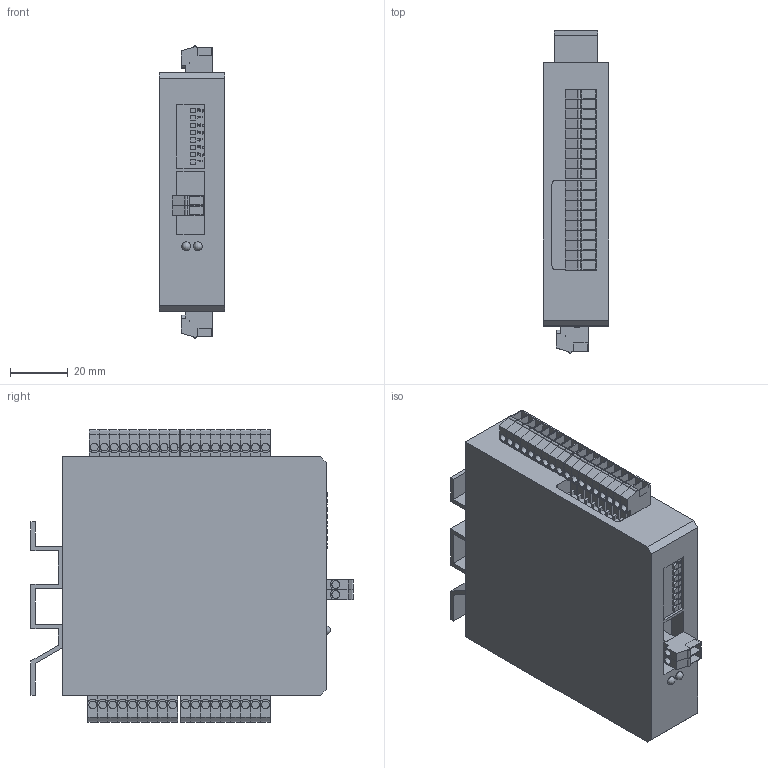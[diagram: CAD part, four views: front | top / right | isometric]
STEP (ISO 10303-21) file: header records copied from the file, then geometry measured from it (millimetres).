
FILE_DESCRIPTION (( 'STEP AP214' ), '1' );
FILE_NAME ('Z1690_Siganlwandler_4~0.STEP', '2017-11-16T10:33:04', ( '' ), ( '' ), 'SwSTEP 2.0', 'SolidWorks 2017', '' );
FILE_SCHEMA (( 'AUTOMOTIVE_DESIGN' ));
Length unit declared in the file: millimetre
Products named in the file (1): Z1690_Siganlwandler_4~0
Bounding box: 22.5 x 111.3 x 101.1 mm (x, y, z)
Volume: 175902.4 mm3; surface area: 47473 mm2
Topology: 40 solids, 40 shells, 1607 faces, 4040 edges, 2692 vertices
Faces by surface type: plane 1429, cylinder 176, bspline 2
Entity records: 65466 total; most frequent: CARTESIAN_POINT 8366, ORIENTED_EDGE 8072, DIRECTION 7604, EDGE_CURVE 4036, VECTOR 3680, LINE 3680, VERTEX_POINT 2692, AXIS2_PLACEMENT_3D 1962
